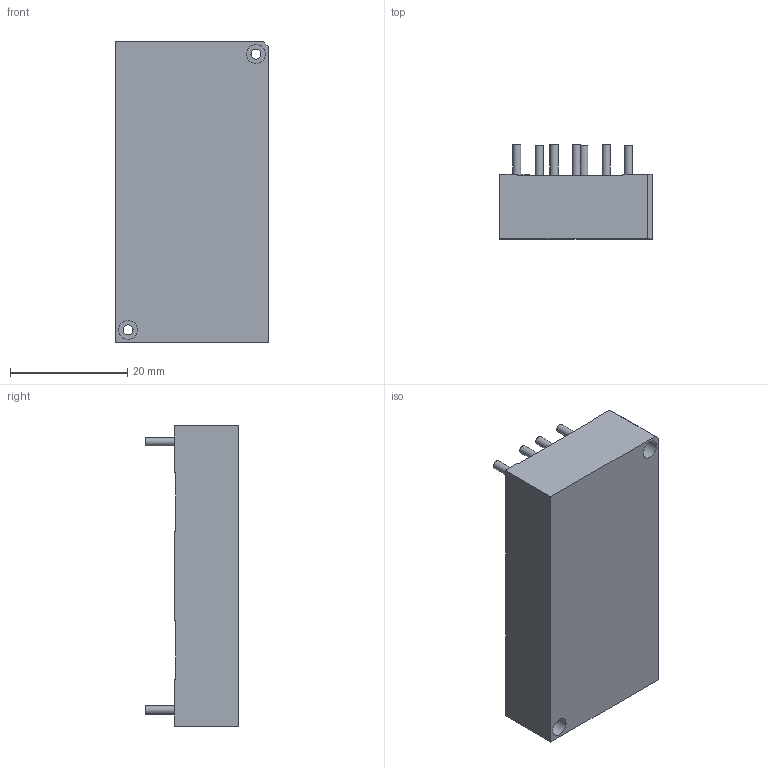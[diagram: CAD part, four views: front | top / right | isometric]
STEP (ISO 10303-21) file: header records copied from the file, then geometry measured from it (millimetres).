
FILE_DESCRIPTION(/* description */ (''),/* implementation_level */ '2;1');
FILE_NAME(/* name */ '',/* author */ (''),/* organization */ (''),/* preprocessor_version */ 'ST-DEVELOPER v18.1',/* originating_system */ '',/* authorisation */ '');
FILE_SCHEMA (('AUTOMOTIVE_DESIGN { 1 0 10303 214 3 1 1 }'));
Length unit declared in the file: millimetre
Products named in the file (1): JETDi60_case_pins
Bounding box: 26 x 16 x 51.2 mm (x, y, z)
Volume: 13987 mm3; surface area: 4723.2 mm2
Topology: 1 solids, 1 shells, 71 faces, 174 edges, 116 vertices
Faces by surface type: plane 52, cylinder 19
Full cylindrical faces by diameter (mm): 1.4 x7, 1.7 x2, 3.2 x4
Entity records: 2137 total; most frequent: CARTESIAN_POINT 362, DIRECTION 358, ORIENTED_EDGE 348, EDGE_CURVE 174, LINE 134, VECTOR 134, VERTEX_POINT 116, AXIS2_PLACEMENT_3D 112
